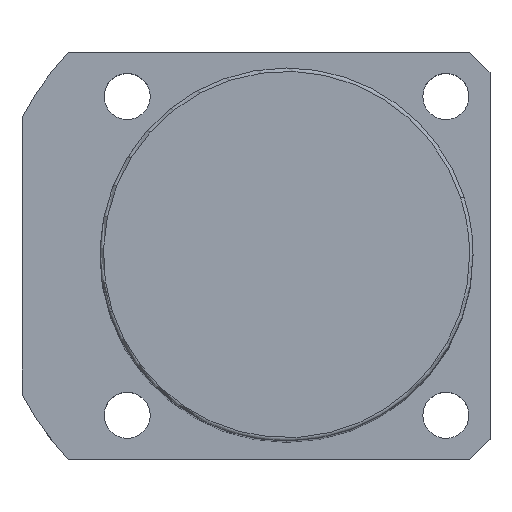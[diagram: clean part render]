
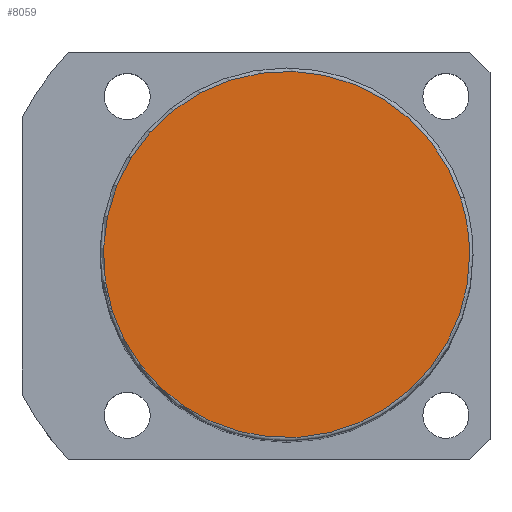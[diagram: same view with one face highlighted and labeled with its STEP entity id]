
A CAD part, top view. The second image highlights one B-rep face of the part: STEP entity #8059.
In plain terms, the highlighted planar face has unit normal (0, 0, 1).
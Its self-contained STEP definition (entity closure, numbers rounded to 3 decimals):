
#8025=CARTESIAN_POINT('',(27.0,0.0,126.0));
#8026=VERTEX_POINT('',#8025);
#8027=CARTESIAN_POINT('',(25.679,8.343,126.0));
#8028=VERTEX_POINT('',#8027);
#8029=CARTESIAN_POINT('',(0.0,0.0,126.0));
#8030=DIRECTION('',(0.0,0.0,1.0));
#8031=DIRECTION('',(1.0,0.0,0.0));
#8032=AXIS2_PLACEMENT_3D('',#8029,#8030,#8031);
#8033=CIRCLE('',#8032,27.0);
#8034=EDGE_CURVE('no 4525',#8026,#8028,#8033,.T.);
#8035=ORIENTED_EDGE('',*,*,#8034,.T.);
#8036=CARTESIAN_POINT('',(-25.679,-8.343,126.0));
#8037=VERTEX_POINT('',#8036);
#8038=CARTESIAN_POINT('',(0.0,0.0,126.0));
#8039=DIRECTION('',(0.0,0.0,1.0));
#8040=DIRECTION('',(1.0,0.0,0.0));
#8041=AXIS2_PLACEMENT_3D('',#8038,#8039,#8040);
#8042=CIRCLE('',#8041,27.0);
#8043=EDGE_CURVE('no 4531',#8028,#8037,#8042,.T.);
#8044=ORIENTED_EDGE('',*,*,#8043,.T.);
#8045=CARTESIAN_POINT('',(0.0,0.0,126.0));
#8046=DIRECTION('',(0.0,0.0,1.0));
#8047=DIRECTION('',(1.0,0.0,0.0));
#8048=AXIS2_PLACEMENT_3D('',#8045,#8046,#8047);
#8049=CIRCLE('',#8048,27.0);
#8050=EDGE_CURVE('no 4535',#8037,#8026,#8049,.T.);
#8051=ORIENTED_EDGE('',*,*,#8050,.T.);
#8052=EDGE_LOOP('',(#8035,#8044,#8051));
#8053=FACE_OUTER_BOUND('',#8052,.T.);
#8054=CARTESIAN_POINT('',(0.0,0.0,126.0));
#8055=DIRECTION('',(0.0,0.0,1.0));
#8056=DIRECTION('',(1.0,0.0,0.0));
#8057=AXIS2_PLACEMENT_3D('',#8054,#8055,#8056);
#8058=PLANE('',#8057);
#8059=ADVANCED_FACE('no 4516',(#8053),#8058,.T.);
